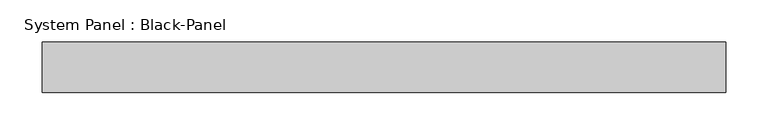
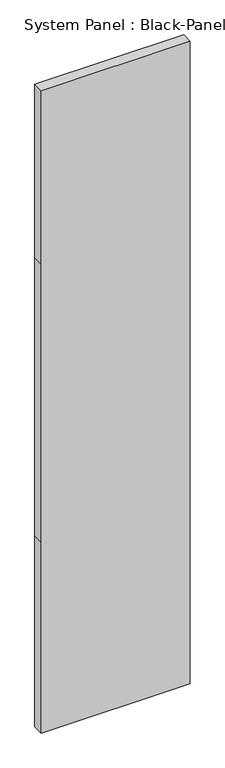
"""IFC4 building model written with IfcOpenShell, lengths in millimetres: plate geometry, System Panel : Black-Panel."""

import ifcopenshell
import ifcopenshell.guid

model = None  # the IFC model being written
_history = None  # IfcOwnerHistory: only IFC2X3 demands one
_inside = {}  # id of a spatial element -> (the spatial element, [elements in it])
_under = {}  # id of a project, library or spatial element -> (it, [spatial elements below it])
_declared = {}  # id of a project -> (the project, [libraries it declares])
_typed = {}  # id of a type object -> (the type object, [elements of that type])
_made_of = {}  # id of a material, layer set ... -> (it, [elements and type objects made of it])


def new_model(schema):
    """Start an empty IFC model of exactly this schema.

    Asked for "IFC4X3", IfcOpenShell would pick the latest addendum, in which some entities
    have other attributes; the version numbers below select the first issue.
    IFC2X3 requires an IfcOwnerHistory on every rooted entity: one is made here for all.
    """
    global model, _history
    if schema == "IFC4X3":
        model = ifcopenshell.file(schema_version=(4, 3, 0, 0))
    else:
        model = ifcopenshell.file(schema=schema)
    _inside.clear()
    _under.clear()
    _declared.clear()
    _typed.clear()
    _made_of.clear()
    _history = None
    if model.schema == "IFC2X3":
        org = make("IfcOrganization", Name="unknown")
        user = make(
            "IfcPersonAndOrganization",
            ThePerson=make("IfcPerson", FamilyName="unknown"),
            TheOrganization=org,
        )
        app = make(
            "IfcApplication",
            ApplicationDeveloper=org,
            Version="unknown",
            ApplicationFullName="unknown",
            ApplicationIdentifier="unknown",
        )
        _history = make(
            "IfcOwnerHistory",
            OwningUser=user,
            OwningApplication=app,
            ChangeAction="ADDED",
            CreationDate=0,
        )
    return model


def make(cls, **values):
    """One entity of the class cls with the attributes given. An attribute that is None is left unset."""
    return model.create_entity(
        cls, **{name: value for name, value in values.items() if value is not None}
    )


def rooted(cls, **values):
    """An entity with a GlobalId (a new one), such as an element, a storey or a relation."""
    return make(cls, GlobalId=ifcopenshell.guid.new(), OwnerHistory=_history, **values)


def si_unit(unit_type, name, prefix=None):
    """IfcSIUnit, for example si_unit("LENGTHUNIT", "METRE", prefix="MILLI")."""
    return make("IfcSIUnit", UnitType=unit_type, Prefix=prefix, Name=name)


def assignment(units):
    """IfcUnitAssignment: the units of a project."""
    return None if units is None else make("IfcUnitAssignment", Units=units)


def point(xyz):
    """IfcCartesianPoint."""
    return None if xyz is None else make("IfcCartesianPoint", Coordinates=xyz)


def direction(xyz):
    """IfcDirection."""
    return None if xyz is None else make("IfcDirection", DirectionRatios=xyz)


def frame(location, z_axis=None, x_axis=None):
    """IfcAxis2Placement3D, a coordinate frame: its origin and axes. An axis left out is left unset."""
    return make(
        "IfcAxis2Placement3D",
        Location=point(location),
        Axis=direction(z_axis),
        RefDirection=direction(x_axis),
    )


def origin():
    """The frame at (0, 0, 0) with its axes left unset."""
    return frame((0.0, 0.0, 0.0))


def place(relative_to, where):
    """IfcLocalPlacement: puts the frame where relative to a parent placement (None: the world)."""
    return make(
        "IfcLocalPlacement", PlacementRelTo=relative_to, RelativePlacement=where
    )


def context(
    kind, dimensions, precision=None, world=None, true_north=None, identifier=None
):
    """IfcGeometricRepresentationContext, for example the 3D "Model" context."""
    return make(
        "IfcGeometricRepresentationContext",
        ContextIdentifier=identifier,
        ContextType=kind,
        CoordinateSpaceDimension=dimensions,
        Precision=precision,
        WorldCoordinateSystem=world,
        TrueNorth=true_north,
    )


def project(units=None, contexts=None):
    """IfcProject with its units and contexts."""
    return rooted(
        "IfcProject",
        Name="project",
        RepresentationContexts=contexts,
        UnitsInContext=assignment(units),
    )


def spatial(cls, under=None, at=None, **own):
    """A site, building, storey or space (cls), placed at a placement, below another one or the project."""
    s = rooted(cls, ObjectPlacement=at, **own)
    if under is not None:
        _under.setdefault(under.id(), (under, []))[1].append(s)
    return s


def polyline(points):
    """IfcPolyline through the points."""
    return make("IfcPolyline", Points=[point(p) for p in points])


def outline(outer, holes=None, kind="AREA"):
    """IfcArbitraryClosedProfileDef: a profile drawn as a closed curve; with holes, ...WithVoids."""
    if holes is None:
        return make("IfcArbitraryClosedProfileDef", ProfileType=kind, OuterCurve=outer)
    return make(
        "IfcArbitraryProfileDefWithVoids",
        ProfileType=kind,
        OuterCurve=outer,
        InnerCurves=holes,
    )


def extrude(swept, where, along, depth):
    """IfcExtrudedAreaSolid: the profile swept, set in the frame where, extruded along a direction by depth."""
    return make(
        "IfcExtrudedAreaSolid",
        SweptArea=swept,
        Position=where,
        ExtrudedDirection=direction(along),
        Depth=depth,
    )


def shape(context_of_items, identifier, shape_type, items):
    """IfcShapeRepresentation: the items that make up one representation, for example the "Body"."""
    return make(
        "IfcShapeRepresentation",
        ContextOfItems=context_of_items,
        RepresentationIdentifier=identifier,
        RepresentationType=shape_type,
        Items=items,
    )


def source(mapping_origin, context_of_items, identifier, shape_type, items):
    """IfcRepresentationMap: a shape defined once, which mapped items show again and again."""
    return make(
        "IfcRepresentationMap",
        MappingOrigin=mapping_origin,
        MappedRepresentation=shape(context_of_items, identifier, shape_type, items),
    )


def transform(
    local_origin,
    x_axis=None,
    y_axis=None,
    z_axis=None,
    scale=None,
    scale2=None,
    scale3=None,
    uniform=True,
):
    """IfcCartesianTransformationOperator3D, or its non-uniform kind. x_axis, y_axis, z_axis: its Axis1, 2, 3."""
    if uniform:
        return make(
            "IfcCartesianTransformationOperator3D",
            Axis1=direction(x_axis),
            Axis2=direction(y_axis),
            LocalOrigin=point(local_origin),
            Scale=scale,
            Axis3=direction(z_axis),
        )
    return make(
        "IfcCartesianTransformationOperator3DnonUniform",
        Axis1=direction(x_axis),
        Axis2=direction(y_axis),
        LocalOrigin=point(local_origin),
        Scale=scale,
        Axis3=direction(z_axis),
        Scale2=scale2,
        Scale3=scale3,
    )


def mapped(mapping_source, mapping_target):
    """IfcMappedItem: shows the shape of a source again, moved by a transform."""
    return make(
        "IfcMappedItem", MappingSource=mapping_source, MappingTarget=mapping_target
    )


def made_of(thing, what):
    """Note that an element or type object is made of a material, layer set ...; save() writes the relation."""
    if what is not None:
        _made_of.setdefault(what.id(), (what, []))[1].append(thing)
    return thing


def element(
    cls,
    number,
    at=None,
    inside=None,
    cuts=None,
    type_object=None,
    material=None,
    context=None,
    identifier="Body",
    shape_type=None,
    held_by="IfcProductDefinitionShape",
    body=None,
    shapes=None,
    **own,
):
    """One element of the class cls, such as IfcWall. Its Tag is "e" and its number.

    at: its placement. inside: the storey or other place that contains it. cuts: it is an
    opening in that element (IfcRelVoidsElement). A single representation is given by context,
    identifier, shape_type and body (its items); several are given by shapes. held_by: the class
    of the entity that holds the representations. save() writes the other relations.
    """
    e = rooted(cls, Tag="e%d" % number, ObjectPlacement=at, **own)
    if body is not None:
        shapes = [shape(context, identifier, shape_type, body)]
    if shapes is not None:
        e.Representation = make(held_by, Representations=shapes)
    if inside is not None:
        _inside.setdefault(inside.id(), (inside, []))[1].append(e)
    if cuts is not None:
        rooted(
            "IfcRelVoidsElement", RelatingBuildingElement=cuts, RelatedOpeningElement=e
        )
    if type_object is not None:
        _typed.setdefault(type_object.id(), (type_object, []))[1].append(e)
    return made_of(e, material)


def aggregate(whole, parts):
    """IfcRelAggregates: a whole, such as a stair, and the parts it consists of."""
    return rooted("IfcRelAggregates", RelatingObject=whole, RelatedObjects=parts)


def save(model, path):
    """Write the relations noted so far, then the file.

    IfcRelAggregates (storeys below a building ...), IfcRelContainedInSpatialStructure (elements
    in a storey), IfcRelDefinesByType, IfcRelAssociatesMaterial and IfcRelDeclares: one each for
    every whole, place, type object, material and project.
    """
    for whole, parts in _under.values():
        aggregate(whole, parts)
    for where, things in _inside.values():
        rooted(
            "IfcRelContainedInSpatialStructure",
            RelatedElements=things,
            RelatingStructure=where,
        )
    for kind, things in _typed.values():
        rooted("IfcRelDefinesByType", RelatedObjects=things, RelatingType=kind)
    for what, things in _made_of.values():
        rooted("IfcRelAssociatesMaterial", RelatedObjects=things, RelatingMaterial=what)
    for by, libraries in _declared.values():
        rooted("IfcRelDeclares", RelatingContext=by, RelatedDefinitions=libraries)
    model.write(path)


def system_panel_black_panel_f1dc39a6(model_context):
    return source(origin(), model_context, "Body", "SweptSolid", [
        extrude(outline(polyline([(0.0, -406.25), (0.0, 406.25), (1100.0, 406.25), (2700.0, 406.25), (3700.0, 406.25), (3700.0, -406.25), (2700.0, -406.25), (1100.0, -406.25), (0.0, -406.25)])), frame((0.0, -10.5, 0.0), z_axis=(0.0, 1.0, 0.0), x_axis=(0.0, 0.0, 1.0)), (0.0, 0.0, 1.0), 60.0),
    ])


if __name__ == "__main__":
    model = new_model("IFC4")
    model_context = context("Model", 3, world=origin())
    ifc_project = project(units=[si_unit("LENGTHUNIT", "METRE", prefix="MILLI")], contexts=[model_context])
    site = spatial("IfcSite", under=ifc_project)
    building = spatial("IfcBuilding", under=site)
    placement = place(None, origin())
    system_panel_black_panel_shape = system_panel_black_panel_f1dc39a6(model_context)
    element("IfcPlate", 1, ObjectType="System Panel : Black-Panel", at=placement, inside=building, context=model_context, shape_type="MappedRepresentation", body=[
        mapped(system_panel_black_panel_shape, transform((0.0, 0.0, 0.0), x_axis=(1.0, 0.0, 0.0), y_axis=(0.0, 1.0, 0.0), z_axis=(0.0, 0.0, 1.0))),
    ])
    save(model, "model.ifc")
